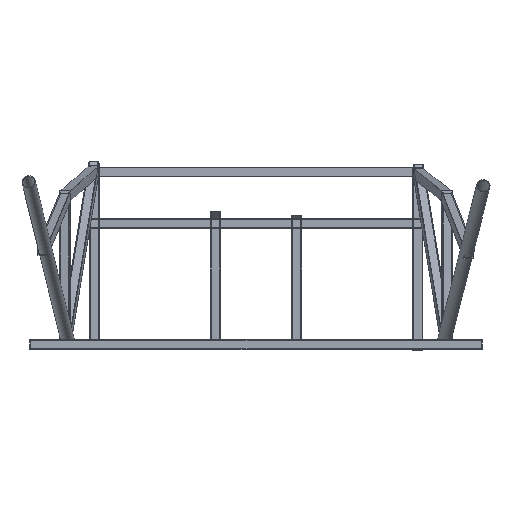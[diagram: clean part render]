
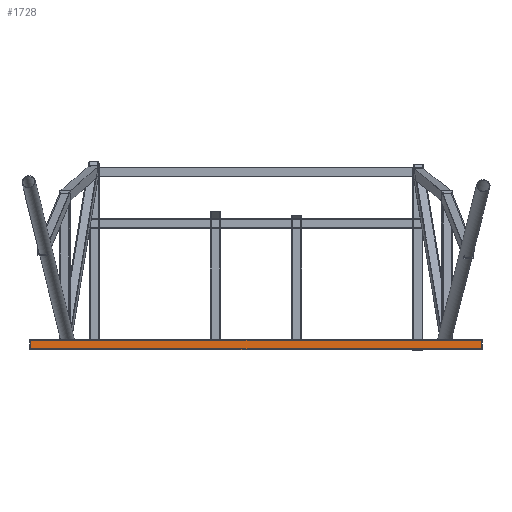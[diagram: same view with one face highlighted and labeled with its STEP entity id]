
A CAD part, front view. The second image highlights one B-rep face of the part: STEP entity #1728.
In plain terms, the highlighted planar face has unit normal (0, -1, 0).
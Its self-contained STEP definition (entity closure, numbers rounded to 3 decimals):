
#1728 = ADVANCED_FACE('',(#1729),#1763,.T.);
#1729 = FACE_BOUND('',#1730,.T.);
#1730 = EDGE_LOOP('',(#1731,#1741,#1749,#1757));
#1731 = ORIENTED_EDGE('',*,*,#1732,.T.);
#1732 = EDGE_CURVE('',#1733,#1735,#1737,.T.);
#1733 = VERTEX_POINT('',#1734);
#1734 = CARTESIAN_POINT('',(-570.106,0.,0.));
#1735 = VERTEX_POINT('',#1736);
#1736 = CARTESIAN_POINT('',(569.894,0.,0.));
#1737 = LINE('',#1738,#1739);
#1738 = CARTESIAN_POINT('',(-570.106,0.,0.));
#1739 = VECTOR('',#1740,1.);
#1740 = DIRECTION('',(1.,0.,0.));
#1741 = ORIENTED_EDGE('',*,*,#1742,.T.);
#1742 = EDGE_CURVE('',#1735,#1743,#1745,.T.);
#1743 = VERTEX_POINT('',#1744);
#1744 = CARTESIAN_POINT('',(569.894,0.,25.));
#1745 = LINE('',#1746,#1747);
#1746 = CARTESIAN_POINT('',(569.894,0.,0.));
#1747 = VECTOR('',#1748,1.);
#1748 = DIRECTION('',(0.,0.,1.));
#1749 = ORIENTED_EDGE('',*,*,#1750,.F.);
#1750 = EDGE_CURVE('',#1751,#1743,#1753,.T.);
#1751 = VERTEX_POINT('',#1752);
#1752 = CARTESIAN_POINT('',(-570.106,0.,25.));
#1753 = LINE('',#1754,#1755);
#1754 = CARTESIAN_POINT('',(-570.106,0.,25.));
#1755 = VECTOR('',#1756,1.);
#1756 = DIRECTION('',(1.,0.,0.));
#1757 = ORIENTED_EDGE('',*,*,#1758,.F.);
#1758 = EDGE_CURVE('',#1733,#1751,#1759,.T.);
#1759 = LINE('',#1760,#1761);
#1760 = CARTESIAN_POINT('',(-570.106,0.,0.));
#1761 = VECTOR('',#1762,1.);
#1762 = DIRECTION('',(0.,0.,1.));
#1763 = PLANE('',#1764);
#1764 = AXIS2_PLACEMENT_3D('',#1765,#1766,#1767);
#1765 = CARTESIAN_POINT('',(-570.106,0.,0.));
#1766 = DIRECTION('',(0.,-1.,0.));
#1767 = DIRECTION('',(0.,0.,1.));
